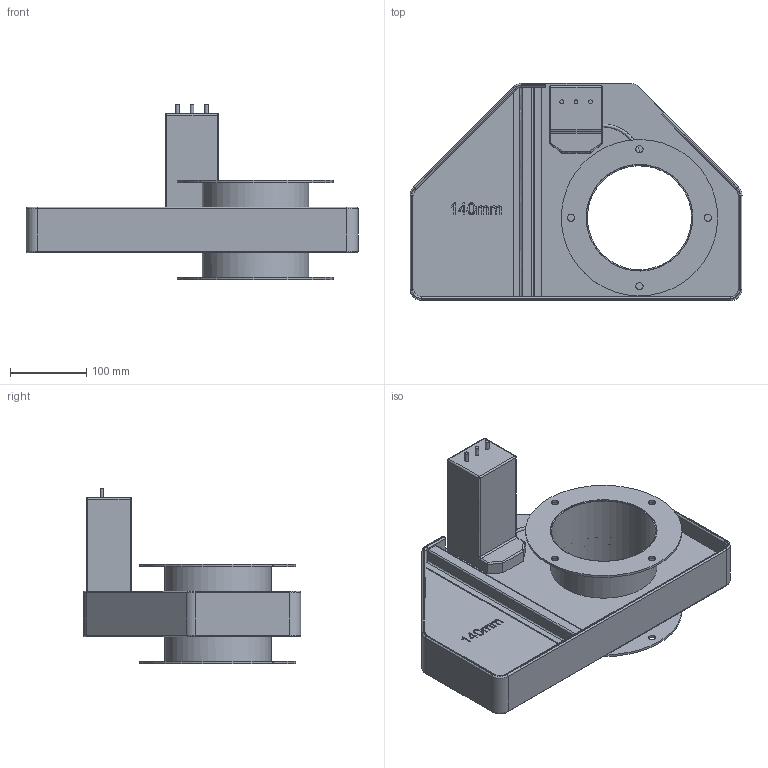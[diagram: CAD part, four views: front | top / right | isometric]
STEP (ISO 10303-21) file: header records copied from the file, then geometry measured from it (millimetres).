
FILE_DESCRIPTION( ('This file contains a STEP AP42 implementation' ,'as created by ZW3D STEP Interface translator.') ,'2;1' );
FILE_NAME( '3D Model-HO140mm Body with drive.stp' ,'20 713. 73159', (''), ('ZWCAD Software Co.'), 'Version 1.0', 'ZW3D to STEP translator', '' );
FILE_SCHEMA(('AUTOMOTIVE_DESIGN'));
Length unit declared in the file: millimetre
Products named in the file (1): 0
Bounding box: 436.63 x 285.67 x 230.3 mm (x, y, z)
Volume: 2379452.7 mm3; surface area: 549722.6 mm2
Topology: 4 solids, 4 shells, 731 faces, 1914 edges, 1269 vertices
Faces by surface type: bspline 731
Entity records: 23837 total; most frequent: CARTESIAN_POINT 11560, ORIENTED_EDGE 3780, EDGE_CURVE 1890, B_SPLINE_CURVE_WITH_KNOTS 1611, VERTEX_POINT 1230, EDGE_LOOP 816, FACE_OUTER_BOUND 731, ADVANCED_FACE 731
